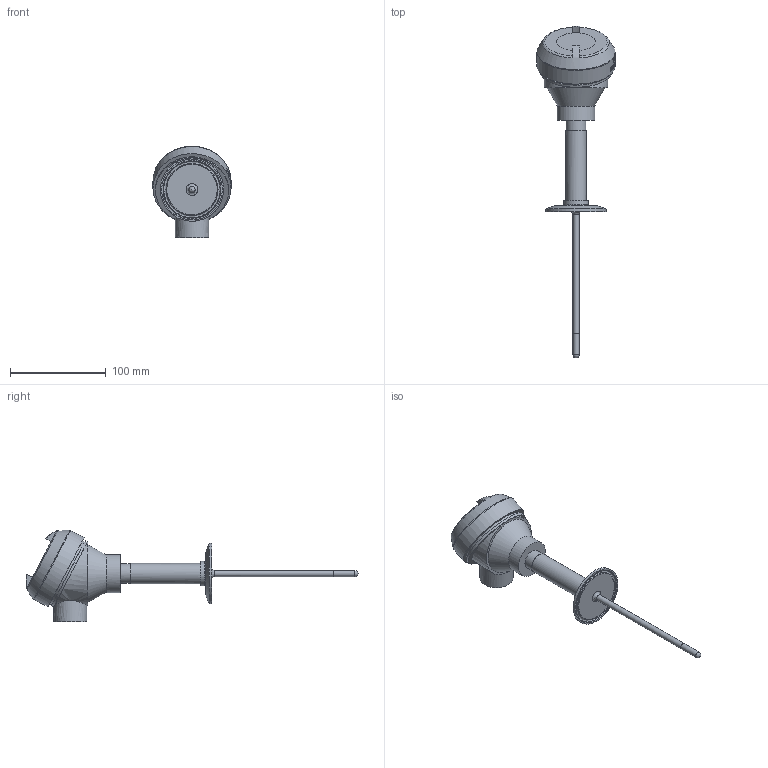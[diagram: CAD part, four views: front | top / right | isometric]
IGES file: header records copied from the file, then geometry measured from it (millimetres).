
Global section: file name: Sanitary-2in-Triclamp-IGS; native system: Autodesk Inventor 2014; preprocessor: unknown; author: Charles; date: 20151111.131547; units: inch
Bounding box: 81.35 x 345.95 x 95.42 mm (x, y, z)
Volume: 315084 mm3; surface area: 54237.5 mm2
Topology: 1 solids, 2 shells, 300 faces, 815 edges, 552 vertices
Faces by surface type: bspline 300
